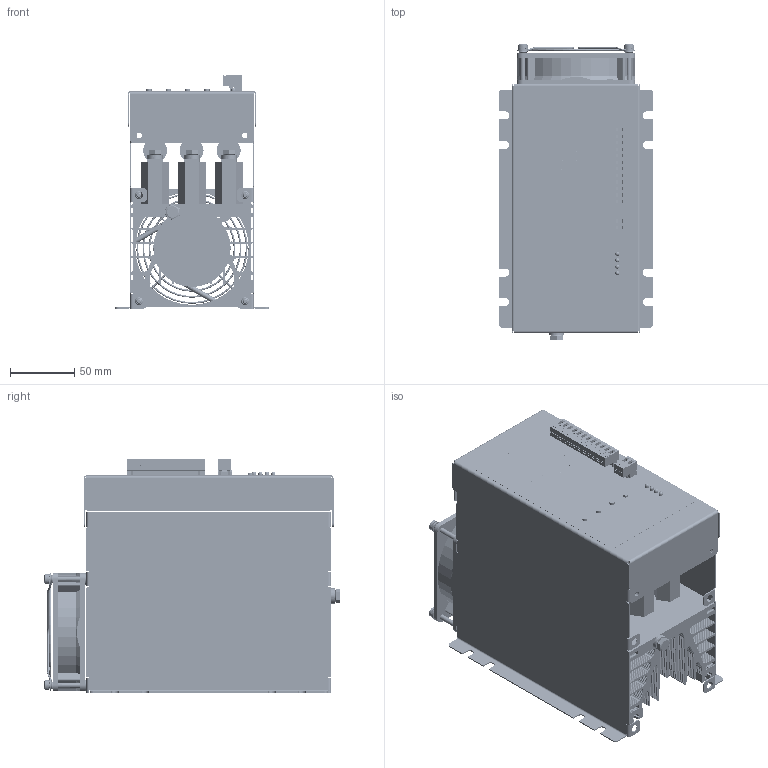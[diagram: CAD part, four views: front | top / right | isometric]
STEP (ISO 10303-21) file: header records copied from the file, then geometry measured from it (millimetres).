
FILE_DESCRIPTION(('STEP AP203'), '1');
FILE_NAME('ÒÐÌ-2Ì-60...100 RS485; ÒÐÌ-3Ì-45...60 RS485; ÒÐÌ-3ÌN-45...60 RS485', '2025-03-24T12:01:33', (''), ('ÎÎÎ "Ìåàíäð"'), 'C3D Converter', 'C3D Toolkit', '');
FILE_SCHEMA(('CONFIG_CONTROL_DESIGN'));
Length unit declared in the file: millimetre
Products named in the file (2): Болт М6х14
Assembly tree (10 placements, depth 2):
  (unnamed)
    Болт М6х14  x10
Bounding box: 120 x 230.24 x 181.05 mm (x, y, z)
Volume: 736513 mm3; surface area: 567623.1 mm2
Topology: 12 solids, 28 shells, 9007 faces, 26089 edges, 17334 vertices
Faces by surface type: plane 4816, cylinder 2335, extrusion 1618, bspline 102, torus 72, cone 56, sphere 8
Full cylindrical faces by diameter (mm): 1.414 x4, 3 x3, 3.1 x14, 3.3 x8, 3.9 x14, 4 x16, 4.2 x4, 4.3 x12, 6 x24, 6.1 x12, 6.4 x10, 8 x4, 8.9 x10, 9 x8, 9.1 x1, 10.01 x1, 12 x10, 14 x3, 18.5 x6, 43.5 x1, 88 x1
Entity records: 396911 total; most frequent: CARTESIAN_POINT 104305, ORIENTED_EDGE 49606, DIRECTION 41338, EDGE_CURVE 24803, VECTOR 17994, VERTEX_POINT 16619, LINE 16376, AXIS2_PLACEMENT_3D 11672
